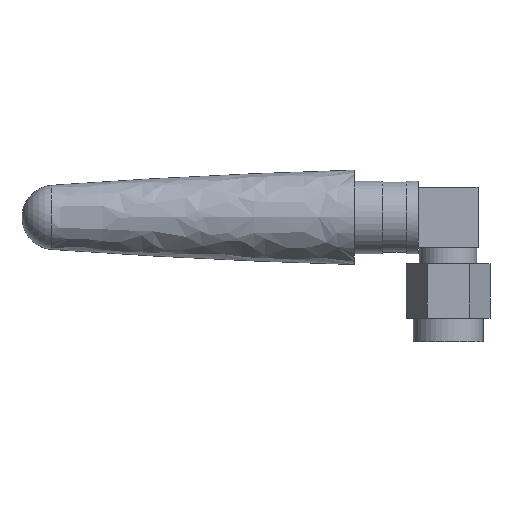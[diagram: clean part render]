
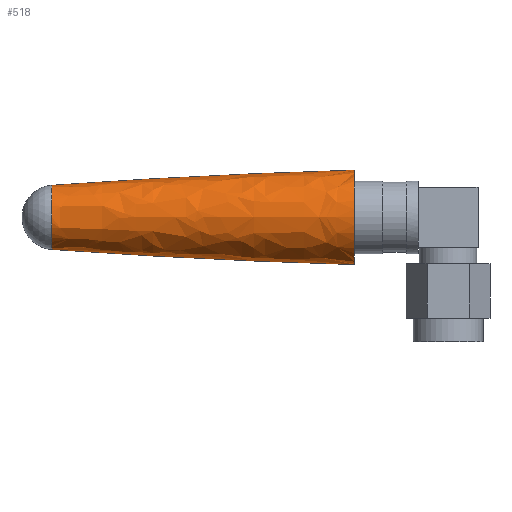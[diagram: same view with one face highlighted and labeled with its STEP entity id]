
A CAD part, top view. The second image highlights one B-rep face of the part: STEP entity #518.
In plain terms, the highlighted free-form (B-spline) face has degree [3, 3] with [7, 4] control points.
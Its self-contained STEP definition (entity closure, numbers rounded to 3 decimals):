
#1=CARTESIAN_POINT('',(4.9,0.,0.));
#2=DIRECTION('',(1.,0.,0.));
#3=DIRECTION('',(0.,1.,0.));
#4=AXIS2_PLACEMENT_3D('',#1,#2,#3);
#6=CARTESIAN_POINT('',(28.043,-794.465,0.));
#7=DIRECTION('',(0.,0.,1.));
#8=DIRECTION('',(-0.029,1.,0.));
#9=AXIS2_PLACEMENT_3D('',#6,#7,#8);
#11=CARTESIAN_POINT('',(28.043,794.465,0.));
#12=DIRECTION('',(0.,0.,-1.));
#13=DIRECTION('',(-0.029,-1.,0.));
#14=AXIS2_PLACEMENT_3D('',#11,#12,#13);
#36=CARTESIAN_POINT('',(-28.4,0.,0.));
#37=DIRECTION('',(1.,0.,0.));
#38=DIRECTION('',(0.,1.,0.));
#39=AXIS2_PLACEMENT_3D('',#36,#37,#38);
#373=CARTESIAN_POINT('',(4.9,5.2,0.));
#374=CARTESIAN_POINT('',(-28.4,3.541,0.));
#375=VERTEX_POINT('',#373);
#376=VERTEX_POINT('',#374);
#379=CARTESIAN_POINT('',(4.9,-5.2,0.));
#380=CARTESIAN_POINT('',(-28.4,-3.541,0.));
#381=VERTEX_POINT('',#379);
#382=VERTEX_POINT('',#380);
#479=CARTESIAN_POINT('',(-29.066,3.487,
-0.219));
#480=CARTESIAN_POINT('',(-17.535,4.311,
-0.271));
#481=CARTESIAN_POINT('',(-5.989,4.885,
-0.307));
#482=CARTESIAN_POINT('',(5.567,5.209,-0.328));
#483=CARTESIAN_POINT('',(-29.066,3.622,1.926));
#484=CARTESIAN_POINT('',(-17.535,4.477,2.382));
#485=CARTESIAN_POINT('',(-5.989,5.074,2.699));
#486=CARTESIAN_POINT('',(5.567,5.41,2.878));
#487=CARTESIAN_POINT('',(-29.066,2.15,3.494));
#488=CARTESIAN_POINT('',(-17.535,2.658,4.319));
#489=CARTESIAN_POINT('',(-5.989,3.012,4.894));
#490=CARTESIAN_POINT('',(5.567,3.212,5.219));
#491=CARTESIAN_POINT('',(-29.066,0.,3.494));
#492=CARTESIAN_POINT('',(-17.535,0.,4.319));
#493=CARTESIAN_POINT('',(-5.989,0.,4.894));
#494=CARTESIAN_POINT('',(5.567,0.,5.219));
#495=CARTESIAN_POINT('',(-29.066,-2.15,3.494));
#496=CARTESIAN_POINT('',(-17.535,-2.658,4.319));
#497=CARTESIAN_POINT('',(-5.989,-3.012,4.894));
#498=CARTESIAN_POINT('',(5.567,-3.212,5.219));
#499=CARTESIAN_POINT('',(-29.066,-3.622,1.926));
#500=CARTESIAN_POINT('',(-17.535,-4.477,2.382));
#501=CARTESIAN_POINT('',(-5.989,-5.074,2.699));
#502=CARTESIAN_POINT('',(5.567,-5.41,2.878));
#503=CARTESIAN_POINT('',(-29.066,-3.487,
-0.219));
#504=CARTESIAN_POINT('',(-17.535,-4.311,
-0.271));
#505=CARTESIAN_POINT('',(-5.989,-4.885,
-0.307));
#506=CARTESIAN_POINT('',(5.567,-5.209,
-0.328));
#507=(BOUNDED_SURFACE()B_SPLINE_SURFACE(3,3,((#479,#480,#481,#482),(#483,#484,
#485,#486),(#487,#488,#489,#490),(#491,#492,#493,#494),(#495,#496,#497,#498),(
#499,#500,#501,#502),(#503,#504,#505,#506)),.UNSPECIFIED.,.F.,.F.,.F.)B_SPLINE_SURFACE_WITH_KNOTS((4,3,4),(4,4),(0.,1.,2.),(0.,1.),.UNSPECIFIED.)GEOMETRIC_REPRESENTATION_ITEM()RATIONAL_B_SPLINE_SURFACE(((1.187,
1.187,1.187,1.187),(0.938,
0.938,0.938,0.938),(0.938,
0.938,0.938,0.938),(1.187,
1.187,1.187,1.187),(0.938,
0.938,0.938,0.938),(0.938,
0.938,0.938,0.938),(1.187,
1.187,1.187,1.187)))REPRESENTATION_ITEM('')SURFACE());
#509=ORIENTED_EDGE('',*,*,#508,.F.);
#511=ORIENTED_EDGE('',*,*,#510,.T.);
#513=ORIENTED_EDGE('',*,*,#512,.T.);
#515=ORIENTED_EDGE('',*,*,#514,.F.);
#516=EDGE_LOOP('',(#509,#511,#513,#515));
#517=FACE_OUTER_BOUND('',#516,.F.);
#518=ADVANCED_FACE('',(#517),#507,.T.);
#5=CIRCLE('',#4,5.2);
#10=CIRCLE('',#9,800.);
#15=CIRCLE('',#14,800.);
#40=CIRCLE('',#39,3.541);
#508=EDGE_CURVE('',#375,#376,#10,.T.);
#510=EDGE_CURVE('',#375,#381,#5,.T.);
#512=EDGE_CURVE('',#381,#382,#15,.T.);
#514=EDGE_CURVE('',#376,#382,#40,.T.);
